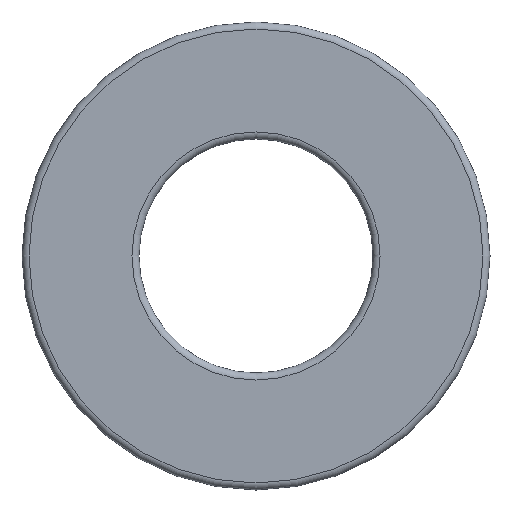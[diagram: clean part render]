
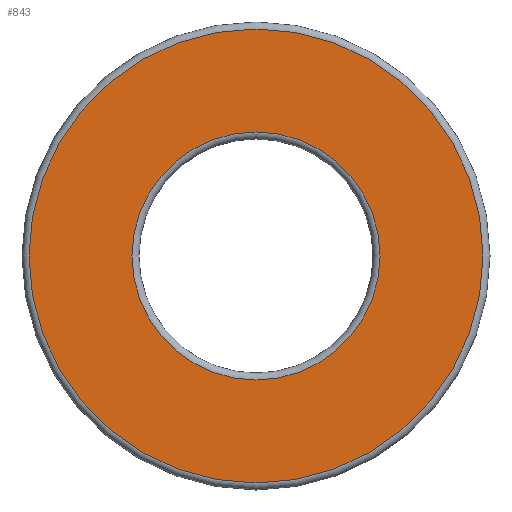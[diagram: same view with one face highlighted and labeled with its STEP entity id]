
A CAD part, front view. The second image highlights one B-rep face of the part: STEP entity #843.
In plain terms, the highlighted planar face has unit normal (0, -1, 0).
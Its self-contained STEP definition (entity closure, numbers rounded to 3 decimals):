
#116=PLANE('',#919);
#147=FACE_BOUND('',#308,.T.);
#239=FACE_OUTER_BOUND('',#307,.T.);
#307=EDGE_LOOP('',(#692));
#308=EDGE_LOOP('',(#693));
#454=CIRCLE('',#918,19.4);
#455=CIRCLE('',#920,10.6);
#531=VERTEX_POINT('',#1400);
#532=VERTEX_POINT('',#1403);
#609=EDGE_CURVE('',#531,#531,#454,.T.);
#610=EDGE_CURVE('',#532,#532,#455,.T.);
#692=ORIENTED_EDGE('',*,*,#609,.F.);
#693=ORIENTED_EDGE('',*,*,#610,.F.);
#843=ADVANCED_FACE('',(#239,#147),#116,.T.);
#918=AXIS2_PLACEMENT_3D('',#1401,#1092,#1093);
#919=AXIS2_PLACEMENT_3D('',#1402,#1094,#1095);
#920=AXIS2_PLACEMENT_3D('',#1404,#1096,#1097);
#1092=DIRECTION('center_axis',(0.,1.,0.));
#1093=DIRECTION('ref_axis',(-1.,0.,0.));
#1094=DIRECTION('center_axis',(0.,-1.,0.));
#1095=DIRECTION('ref_axis',(0.,0.,-1.));
#1096=DIRECTION('center_axis',(0.,-1.,0.));
#1097=DIRECTION('ref_axis',(-1.,0.,0.));
#1400=CARTESIAN_POINT('',(19.4,-7.,0.));
#1401=CARTESIAN_POINT('Origin',(0.,-7.,0.));
#1402=CARTESIAN_POINT('Origin',(10.,-7.,0.));
#1403=CARTESIAN_POINT('',(10.6,-7.,0.));
#1404=CARTESIAN_POINT('Origin',(0.,-7.,0.));
